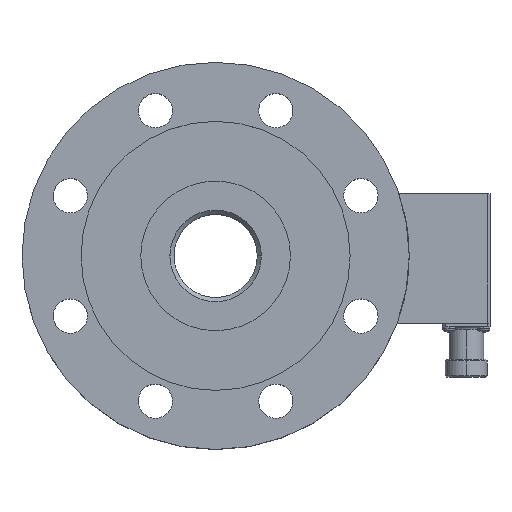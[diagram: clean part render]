
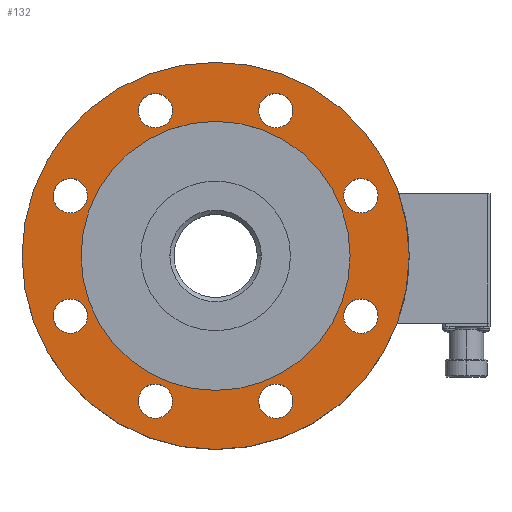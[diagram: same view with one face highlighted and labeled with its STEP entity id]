
A CAD part, top view. The second image highlights one B-rep face of the part: STEP entity #132.
In plain terms, the highlighted planar face has unit normal (0, 0, 1).
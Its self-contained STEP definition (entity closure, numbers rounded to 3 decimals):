
#132=ADVANCED_FACE('',(#359,#360,#361,#362,#363,#364,#365,#366,#367,#368),#369,.T.);
#359=FACE_BOUND('',#726,.T.);
#360=FACE_BOUND('',#727,.T.);
#361=FACE_BOUND('',#728,.T.);
#362=FACE_BOUND('',#729,.T.);
#363=FACE_BOUND('',#730,.T.);
#364=FACE_BOUND('',#731,.T.);
#365=FACE_BOUND('',#732,.T.);
#366=FACE_BOUND('',#733,.T.);
#367=FACE_BOUND('',#734,.T.);
#368=FACE_OUTER_BOUND('',#735,.T.);
#369=PLANE('',#736);
#726=EDGE_LOOP('',(#1437,#1438));
#727=EDGE_LOOP('',(#1439,#1440));
#728=EDGE_LOOP('',(#1441,#1442));
#729=EDGE_LOOP('',(#1443,#1444));
#730=EDGE_LOOP('',(#1445,#1446));
#731=EDGE_LOOP('',(#1447,#1448));
#732=EDGE_LOOP('',(#1449,#1450));
#733=EDGE_LOOP('',(#1451,#1452));
#734=EDGE_LOOP('',(#1453,#1454));
#735=EDGE_LOOP('',(#1455,#1456));
#736=AXIS2_PLACEMENT_3D('',#1457,#1458,#1459);
#1437=ORIENTED_EDGE('',*,*,#2516,.T.);
#1438=ORIENTED_EDGE('',*,*,#2499,.T.);
#1439=ORIENTED_EDGE('',*,*,#2518,.T.);
#1440=ORIENTED_EDGE('',*,*,#2495,.T.);
#1441=ORIENTED_EDGE('',*,*,#2520,.T.);
#1442=ORIENTED_EDGE('',*,*,#2491,.T.);
#1443=ORIENTED_EDGE('',*,*,#2522,.T.);
#1444=ORIENTED_EDGE('',*,*,#2487,.T.);
#1445=ORIENTED_EDGE('',*,*,#2524,.T.);
#1446=ORIENTED_EDGE('',*,*,#2483,.T.);
#1447=ORIENTED_EDGE('',*,*,#2526,.T.);
#1448=ORIENTED_EDGE('',*,*,#2479,.T.);
#1449=ORIENTED_EDGE('',*,*,#2528,.T.);
#1450=ORIENTED_EDGE('',*,*,#2475,.T.);
#1451=ORIENTED_EDGE('',*,*,#2530,.T.);
#1452=ORIENTED_EDGE('',*,*,#2471,.T.);
#1453=ORIENTED_EDGE('',*,*,#2538,.T.);
#1454=ORIENTED_EDGE('',*,*,#2449,.T.);
#1455=ORIENTED_EDGE('',*,*,#2503,.F.);
#1456=ORIENTED_EDGE('',*,*,#2514,.F.);
#1457=CARTESIAN_POINT('',(38.1,0.,45.7));
#1458=DIRECTION('',(0.,0.,1.0));
#1459=DIRECTION('',(-1.0,0.,0.));
#2449=EDGE_CURVE('',#2992,#2989,#2993,.T.);
#2471=EDGE_CURVE('',#3032,#3029,#3033,.T.);
#2475=EDGE_CURVE('',#3040,#3037,#3041,.T.);
#2479=EDGE_CURVE('',#3048,#3045,#3049,.T.);
#2483=EDGE_CURVE('',#3056,#3053,#3057,.T.);
#2487=EDGE_CURVE('',#3064,#3061,#3065,.T.);
#2491=EDGE_CURVE('',#3072,#3069,#3073,.T.);
#2495=EDGE_CURVE('',#3080,#3077,#3081,.T.);
#2499=EDGE_CURVE('',#3088,#3085,#3089,.T.);
#2503=EDGE_CURVE('',#3093,#3096,#3097,.T.);
#2514=EDGE_CURVE('',#3096,#3093,#3115,.T.);
#2516=EDGE_CURVE('',#3085,#3088,#3117,.T.);
#2518=EDGE_CURVE('',#3077,#3080,#3119,.T.);
#2520=EDGE_CURVE('',#3069,#3072,#3121,.T.);
#2522=EDGE_CURVE('',#3061,#3064,#3123,.T.);
#2524=EDGE_CURVE('',#3053,#3056,#3125,.T.);
#2526=EDGE_CURVE('',#3045,#3048,#3127,.T.);
#2528=EDGE_CURVE('',#3037,#3040,#3129,.T.);
#2530=EDGE_CURVE('',#3029,#3032,#3131,.T.);
#2538=EDGE_CURVE('',#2989,#2992,#3139,.T.);
#2989=VERTEX_POINT('',#3987);
#2992=VERTEX_POINT('',#3991);
#2993=CIRCLE('',#3992,52.95);
#3029=VERTEX_POINT('',#4039);
#3032=VERTEX_POINT('',#4043);
#3033=CIRCLE('',#4044,6.75);
#3037=VERTEX_POINT('',#4049);
#3040=VERTEX_POINT('',#4053);
#3041=CIRCLE('',#4054,6.75);
#3045=VERTEX_POINT('',#4059);
#3048=VERTEX_POINT('',#4063);
#3049=CIRCLE('',#4064,6.75);
#3053=VERTEX_POINT('',#4069);
#3056=VERTEX_POINT('',#4073);
#3057=CIRCLE('',#4074,6.75);
#3061=VERTEX_POINT('',#4079);
#3064=VERTEX_POINT('',#4083);
#3065=CIRCLE('',#4084,6.75);
#3069=VERTEX_POINT('',#4089);
#3072=VERTEX_POINT('',#4093);
#3073=CIRCLE('',#4094,6.75);
#3077=VERTEX_POINT('',#4099);
#3080=VERTEX_POINT('',#4103);
#3081=CIRCLE('',#4104,6.75);
#3085=VERTEX_POINT('',#4109);
#3088=VERTEX_POINT('',#4113);
#3089=CIRCLE('',#4114,6.75);
#3093=VERTEX_POINT('',#4119);
#3096=VERTEX_POINT('',#4123);
#3097=CIRCLE('',#4124,76.2);
#3115=CIRCLE('',#4146,76.2);
#3117=CIRCLE('',#4148,6.75);
#3119=CIRCLE('',#4150,6.75);
#3121=CIRCLE('',#4152,6.75);
#3123=CIRCLE('',#4154,6.75);
#3125=CIRCLE('',#4156,6.75);
#3127=CIRCLE('',#4158,6.75);
#3129=CIRCLE('',#4160,6.75);
#3131=CIRCLE('',#4162,6.75);
#3139=CIRCLE('',#4170,52.95);
#3987=CARTESIAN_POINT('',(52.95,0.0,45.7));
#3991=CARTESIAN_POINT('',(-52.95,0.,45.7));
#3992=AXIS2_PLACEMENT_3D('',#5028,#5029,#5030);
#4039=CARTESIAN_POINT('',(-63.424,-26.271,45.7));
#4043=CARTESIAN_POINT('',(-50.952,-21.105,45.7));
#4044=AXIS2_PLACEMENT_3D('',#5070,#5071,#5072);
#4049=CARTESIAN_POINT('',(-26.271,-63.424,45.7));
#4053=CARTESIAN_POINT('',(-21.105,-50.952,45.7));
#4054=AXIS2_PLACEMENT_3D('',#5078,#5079,#5080);
#4059=CARTESIAN_POINT('',(26.271,-63.424,45.7));
#4063=CARTESIAN_POINT('',(21.105,-50.952,45.7));
#4064=AXIS2_PLACEMENT_3D('',#5086,#5087,#5088);
#4069=CARTESIAN_POINT('',(63.424,-26.271,45.7));
#4073=CARTESIAN_POINT('',(50.952,-21.105,45.7));
#4074=AXIS2_PLACEMENT_3D('',#5094,#5095,#5096);
#4079=CARTESIAN_POINT('',(63.424,26.271,45.7));
#4083=CARTESIAN_POINT('',(50.952,21.105,45.7));
#4084=AXIS2_PLACEMENT_3D('',#5102,#5103,#5104);
#4089=CARTESIAN_POINT('',(26.271,63.424,45.7));
#4093=CARTESIAN_POINT('',(21.105,50.952,45.7));
#4094=AXIS2_PLACEMENT_3D('',#5110,#5111,#5112);
#4099=CARTESIAN_POINT('',(-26.271,63.424,45.7));
#4103=CARTESIAN_POINT('',(-21.105,50.952,45.7));
#4104=AXIS2_PLACEMENT_3D('',#5118,#5119,#5120);
#4109=CARTESIAN_POINT('',(-63.424,26.271,45.7));
#4113=CARTESIAN_POINT('',(-50.952,21.105,45.7));
#4114=AXIS2_PLACEMENT_3D('',#5126,#5127,#5128);
#4119=CARTESIAN_POINT('',(76.2,0.,45.7));
#4123=CARTESIAN_POINT('',(-76.2,0.,45.7));
#4124=AXIS2_PLACEMENT_3D('',#5134,#5135,#5136);
#4146=AXIS2_PLACEMENT_3D('',#5159,#5160,#5161);
#4148=AXIS2_PLACEMENT_3D('',#5165,#5166,#5167);
#4150=AXIS2_PLACEMENT_3D('',#5171,#5172,#5173);
#4152=AXIS2_PLACEMENT_3D('',#5177,#5178,#5179);
#4154=AXIS2_PLACEMENT_3D('',#5183,#5184,#5185);
#4156=AXIS2_PLACEMENT_3D('',#5189,#5190,#5191);
#4158=AXIS2_PLACEMENT_3D('',#5195,#5196,#5197);
#4160=AXIS2_PLACEMENT_3D('',#5201,#5202,#5203);
#4162=AXIS2_PLACEMENT_3D('',#5207,#5208,#5209);
#4170=AXIS2_PLACEMENT_3D('',#5231,#5232,#5233);
#5028=CARTESIAN_POINT('',(0.0,0.0,45.7));
#5029=DIRECTION('',(0.,0.,-1.0));
#5030=DIRECTION('',(1.0,0.,0.));
#5070=CARTESIAN_POINT('',(-57.188,-23.688,45.7));
#5071=DIRECTION('',(0.,0.,-1.0));
#5072=DIRECTION('',(-0.924,-0.383,0.));
#5078=CARTESIAN_POINT('',(-23.688,-57.188,45.7));
#5079=DIRECTION('',(0.,0.,-1.0));
#5080=DIRECTION('',(-0.383,-0.924,0.));
#5086=CARTESIAN_POINT('',(23.688,-57.188,45.7));
#5087=DIRECTION('',(0.,0.,-1.0));
#5088=DIRECTION('',(0.383,-0.924,0.));
#5094=CARTESIAN_POINT('',(57.188,-23.688,45.7));
#5095=DIRECTION('',(0.,0.,-1.0));
#5096=DIRECTION('',(0.924,-0.383,0.));
#5102=CARTESIAN_POINT('',(57.188,23.688,45.7));
#5103=DIRECTION('',(0.,0.,-1.0));
#5104=DIRECTION('',(0.924,0.383,0.));
#5110=CARTESIAN_POINT('',(23.688,57.188,45.7));
#5111=DIRECTION('',(0.,0.,-1.0));
#5112=DIRECTION('',(0.383,0.924,0.));
#5118=CARTESIAN_POINT('',(-23.688,57.188,45.7));
#5119=DIRECTION('',(0.,0.,-1.0));
#5120=DIRECTION('',(-0.383,0.924,0.));
#5126=CARTESIAN_POINT('',(-57.188,23.688,45.7));
#5127=DIRECTION('',(0.,0.,-1.0));
#5128=DIRECTION('',(-0.924,0.383,0.));
#5134=CARTESIAN_POINT('',(0.0,0.,45.7));
#5135=DIRECTION('',(0.0,0.,-1.0));
#5136=DIRECTION('',(1.0,0.0,0.0));
#5159=CARTESIAN_POINT('',(0.0,0.,45.7));
#5160=DIRECTION('',(0.0,0.,-1.0));
#5161=DIRECTION('',(1.0,0.0,0.0));
#5165=CARTESIAN_POINT('',(-57.188,23.688,45.7));
#5166=DIRECTION('',(0.,0.,-1.0));
#5167=DIRECTION('',(-0.924,0.383,0.));
#5171=CARTESIAN_POINT('',(-23.688,57.188,45.7));
#5172=DIRECTION('',(0.,0.,-1.0));
#5173=DIRECTION('',(-0.383,0.924,0.));
#5177=CARTESIAN_POINT('',(23.688,57.188,45.7));
#5178=DIRECTION('',(0.,0.,-1.0));
#5179=DIRECTION('',(0.383,0.924,0.));
#5183=CARTESIAN_POINT('',(57.188,23.688,45.7));
#5184=DIRECTION('',(0.,0.,-1.0));
#5185=DIRECTION('',(0.924,0.383,0.));
#5189=CARTESIAN_POINT('',(57.188,-23.688,45.7));
#5190=DIRECTION('',(0.,0.,-1.0));
#5191=DIRECTION('',(0.924,-0.383,0.));
#5195=CARTESIAN_POINT('',(23.688,-57.188,45.7));
#5196=DIRECTION('',(0.,0.,-1.0));
#5197=DIRECTION('',(0.383,-0.924,0.));
#5201=CARTESIAN_POINT('',(-23.688,-57.188,45.7));
#5202=DIRECTION('',(0.,0.,-1.0));
#5203=DIRECTION('',(-0.383,-0.924,0.));
#5207=CARTESIAN_POINT('',(-57.188,-23.688,45.7));
#5208=DIRECTION('',(0.,0.,-1.0));
#5209=DIRECTION('',(-0.924,-0.383,0.));
#5231=CARTESIAN_POINT('',(0.0,0.0,45.7));
#5232=DIRECTION('',(0.,0.,-1.0));
#5233=DIRECTION('',(1.0,0.,0.));
